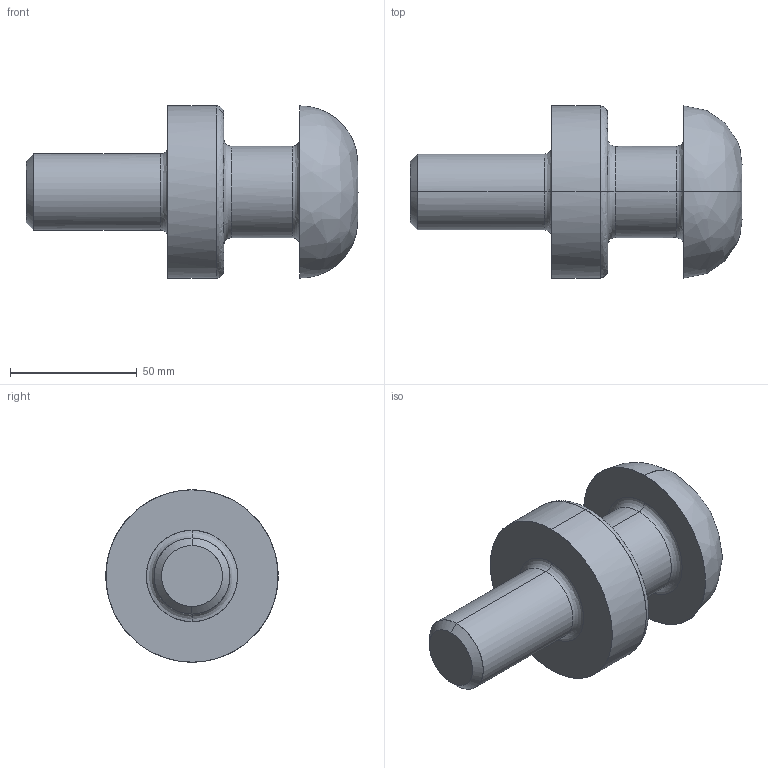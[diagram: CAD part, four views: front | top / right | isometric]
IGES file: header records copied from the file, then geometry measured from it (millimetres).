
Global section: file name: E:\UnigraphicsGraphicData\MISUMI_PRESS-PARTS\IGES\3d_chn30_03541_r00.igs; native system: NX V5.0; preprocessor: UGS NX IGES V5.0; author: MISUMI; date: 20110105.160220; units: millimetre
Bounding box: 131 x 68 x 68 mm (x, y, z)
Surface area: 28803.1 mm2 (no closed solid volume)
Topology: 0 solids, 0 shells, 29 faces, 238 edges, 238 vertices
Faces by surface type: bspline 29
